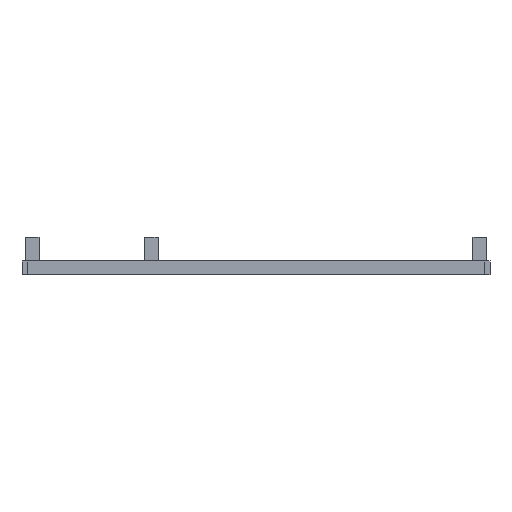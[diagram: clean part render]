
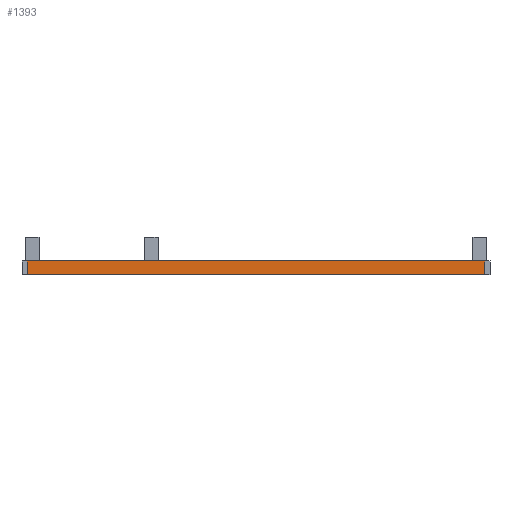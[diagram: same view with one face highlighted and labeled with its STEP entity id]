
A CAD part, front view. The second image highlights one B-rep face of the part: STEP entity #1393.
In plain terms, the highlighted planar face has unit normal (0, -1, 0).
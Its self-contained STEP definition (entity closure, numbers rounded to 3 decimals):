
#21 = EDGE_CURVE('',#22,#24,#26,.T.);
#22 = VERTEX_POINT('',#23);
#23 = CARTESIAN_POINT('',(27.2,-27.2,-2.22));
#24 = VERTEX_POINT('',#25);
#25 = CARTESIAN_POINT('',(0.3,-27.2,-2.22));
#26 = SURFACE_CURVE('',#27,(#31,#43),.PCURVE_S1.);
#27 = LINE('',#28,#29);
#28 = CARTESIAN_POINT('',(27.5,-27.2,-2.22));
#29 = VECTOR('',#30,1.);
#30 = DIRECTION('',(-1.,0.,0.));
#31 = PCURVE('',#32,#37);
#32 = PLANE('',#33);
#33 = AXIS2_PLACEMENT_3D('',#34,#35,#36);
#34 = CARTESIAN_POINT('',(0.3,-27.2,-2.22));
#35 = DIRECTION('',(0.,0.,1.));
#36 = DIRECTION('',(1.,0.,-0.));
#37 = DEFINITIONAL_REPRESENTATION('',(#38),#42);
#38 = LINE('',#39,#40);
#39 = CARTESIAN_POINT('',(27.2,0.));
#40 = VECTOR('',#41,1.);
#41 = DIRECTION('',(-1.,0.));
#42 = ( GEOMETRIC_REPRESENTATION_CONTEXT(2) 
PARAMETRIC_REPRESENTATION_CONTEXT() REPRESENTATION_CONTEXT('2D SPACE',''
  ) );
#43 = PCURVE('',#44,#49);
#44 = PLANE('',#45);
#45 = AXIS2_PLACEMENT_3D('',#46,#47,#48);
#46 = CARTESIAN_POINT('',(0.3,-27.2,-2.22));
#47 = DIRECTION('',(0.,1.,0.));
#48 = DIRECTION('',(0.,-0.,1.));
#49 = DEFINITIONAL_REPRESENTATION('',(#50),#54);
#50 = LINE('',#51,#52);
#51 = CARTESIAN_POINT('',(0.,27.2));
#52 = VECTOR('',#53,1.);
#53 = DIRECTION('',(0.,-1.));
#54 = ( GEOMETRIC_REPRESENTATION_CONTEXT(2) 
PARAMETRIC_REPRESENTATION_CONTEXT() REPRESENTATION_CONTEXT('2D SPACE',''
  ) );
#71 = PLANE('',#72);
#72 = AXIS2_PLACEMENT_3D('',#73,#74,#75);
#73 = CARTESIAN_POINT('',(27.2,-27.2,-2.3));
#74 = DIRECTION('',(1.,0.,0.));
#75 = DIRECTION('',(0.,0.,1.));
#1161 = PLANE('',#1162);
#1162 = AXIS2_PLACEMENT_3D('',#1163,#1164,#1165);
#1163 = CARTESIAN_POINT('',(0.3,-27.2,-2.3));
#1164 = DIRECTION('',(1.,0.,0.));
#1165 = DIRECTION('',(0.,0.,1.));
#1393 = ADVANCED_FACE('',(#1394),#44,.F.);
#1394 = FACE_BOUND('',#1395,.F.);
#1395 = EDGE_LOOP('',(#1396,#1419,#1420,#1443));
#1396 = ORIENTED_EDGE('',*,*,#1397,.F.);
#1397 = EDGE_CURVE('',#22,#1398,#1400,.T.);
#1398 = VERTEX_POINT('',#1399);
#1399 = CARTESIAN_POINT('',(27.2,-27.2,-1.42));
#1400 = SURFACE_CURVE('',#1401,(#1405,#1412),.PCURVE_S1.);
#1401 = LINE('',#1402,#1403);
#1402 = CARTESIAN_POINT('',(27.2,-27.2,-2.3));
#1403 = VECTOR('',#1404,1.);
#1404 = DIRECTION('',(0.,0.,1.));
#1405 = PCURVE('',#44,#1406);
#1406 = DEFINITIONAL_REPRESENTATION('',(#1407),#1411);
#1407 = LINE('',#1408,#1409);
#1408 = CARTESIAN_POINT('',(-0.08,26.9));
#1409 = VECTOR('',#1410,1.);
#1410 = DIRECTION('',(1.,0.));
#1411 = ( GEOMETRIC_REPRESENTATION_CONTEXT(2) 
PARAMETRIC_REPRESENTATION_CONTEXT() REPRESENTATION_CONTEXT('2D SPACE',''
  ) );
#1412 = PCURVE('',#71,#1413);
#1413 = DEFINITIONAL_REPRESENTATION('',(#1414),#1418);
#1414 = LINE('',#1415,#1416);
#1415 = CARTESIAN_POINT('',(0.,0.));
#1416 = VECTOR('',#1417,1.);
#1417 = DIRECTION('',(1.,0.));
#1418 = ( GEOMETRIC_REPRESENTATION_CONTEXT(2) 
PARAMETRIC_REPRESENTATION_CONTEXT() REPRESENTATION_CONTEXT('2D SPACE',''
  ) );
#1419 = ORIENTED_EDGE('',*,*,#21,.T.);
#1420 = ORIENTED_EDGE('',*,*,#1421,.T.);
#1421 = EDGE_CURVE('',#24,#1422,#1424,.T.);
#1422 = VERTEX_POINT('',#1423);
#1423 = CARTESIAN_POINT('',(0.3,-27.2,-1.42));
#1424 = SURFACE_CURVE('',#1425,(#1429,#1436),.PCURVE_S1.);
#1425 = LINE('',#1426,#1427);
#1426 = CARTESIAN_POINT('',(0.3,-27.2,-2.3));
#1427 = VECTOR('',#1428,1.);
#1428 = DIRECTION('',(0.,0.,1.));
#1429 = PCURVE('',#44,#1430);
#1430 = DEFINITIONAL_REPRESENTATION('',(#1431),#1435);
#1431 = LINE('',#1432,#1433);
#1432 = CARTESIAN_POINT('',(-0.08,0.));
#1433 = VECTOR('',#1434,1.);
#1434 = DIRECTION('',(1.,0.));
#1435 = ( GEOMETRIC_REPRESENTATION_CONTEXT(2) 
PARAMETRIC_REPRESENTATION_CONTEXT() REPRESENTATION_CONTEXT('2D SPACE',''
  ) );
#1436 = PCURVE('',#1161,#1437);
#1437 = DEFINITIONAL_REPRESENTATION('',(#1438),#1442);
#1438 = LINE('',#1439,#1440);
#1439 = CARTESIAN_POINT('',(0.,0.));
#1440 = VECTOR('',#1441,1.);
#1441 = DIRECTION('',(1.,0.));
#1442 = ( GEOMETRIC_REPRESENTATION_CONTEXT(2) 
PARAMETRIC_REPRESENTATION_CONTEXT() REPRESENTATION_CONTEXT('2D SPACE',''
  ) );
#1443 = ORIENTED_EDGE('',*,*,#1444,.F.);
#1444 = EDGE_CURVE('',#1398,#1422,#1445,.T.);
#1445 = SURFACE_CURVE('',#1446,(#1450,#1457),.PCURVE_S1.);
#1446 = LINE('',#1447,#1448);
#1447 = CARTESIAN_POINT('',(27.5,-27.2,-1.42));
#1448 = VECTOR('',#1449,1.);
#1449 = DIRECTION('',(-1.,0.,0.));
#1450 = PCURVE('',#44,#1451);
#1451 = DEFINITIONAL_REPRESENTATION('',(#1452),#1456);
#1452 = LINE('',#1453,#1454);
#1453 = CARTESIAN_POINT('',(0.8,27.2));
#1454 = VECTOR('',#1455,1.);
#1455 = DIRECTION('',(0.,-1.));
#1456 = ( GEOMETRIC_REPRESENTATION_CONTEXT(2) 
PARAMETRIC_REPRESENTATION_CONTEXT() REPRESENTATION_CONTEXT('2D SPACE',''
  ) );
#1457 = PCURVE('',#1458,#1463);
#1458 = PLANE('',#1459);
#1459 = AXIS2_PLACEMENT_3D('',#1460,#1461,#1462);
#1460 = CARTESIAN_POINT('',(0.,-27.2,-1.42));
#1461 = DIRECTION('',(0.,0.,1.));
#1462 = DIRECTION('',(1.,0.,0.));
#1463 = DEFINITIONAL_REPRESENTATION('',(#1464),#1468);
#1464 = LINE('',#1465,#1466);
#1465 = CARTESIAN_POINT('',(27.5,0.));
#1466 = VECTOR('',#1467,1.);
#1467 = DIRECTION('',(-1.,0.));
#1468 = ( GEOMETRIC_REPRESENTATION_CONTEXT(2) 
PARAMETRIC_REPRESENTATION_CONTEXT() REPRESENTATION_CONTEXT('2D SPACE',''
  ) );
